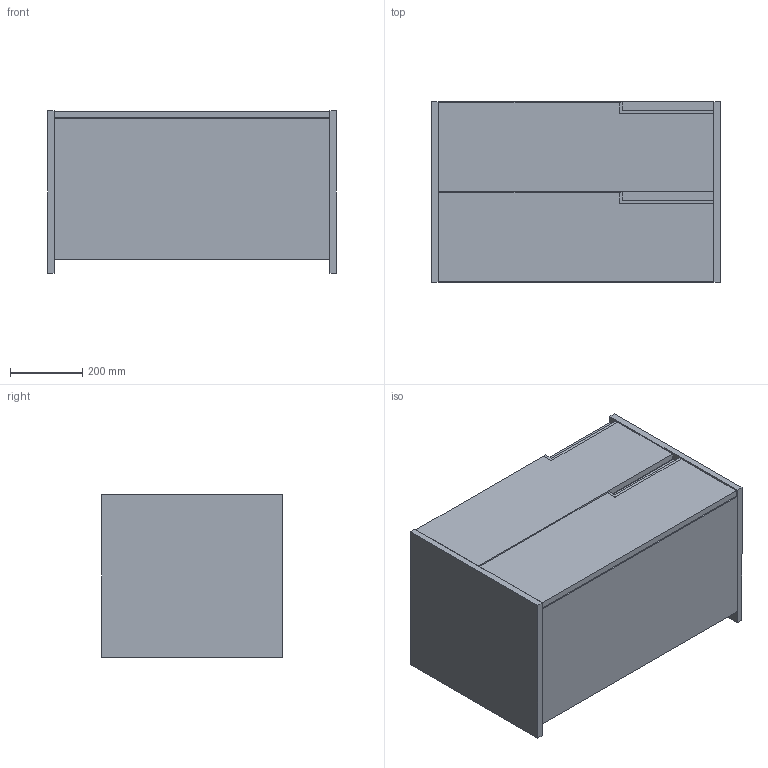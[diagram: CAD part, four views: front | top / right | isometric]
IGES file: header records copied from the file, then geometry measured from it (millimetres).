
Global section: file name: 3D Dosyası,; native system: Autodesk Inventor 2024; preprocessor: unknown; author: pc19; date: 20250415.134527; units: millimetre
Bounding box: 800 x 500 x 450 mm (x, y, z)
Volume: 30003278.8 mm3; surface area: 5067086.6 mm2
Topology: 33 solids, 33 shells, 1025 faces, 2870 edges, 1953 vertices
Faces by surface type: bspline 1025
